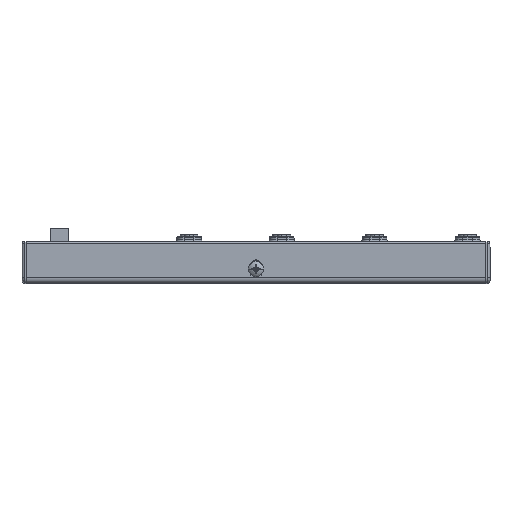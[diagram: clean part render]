
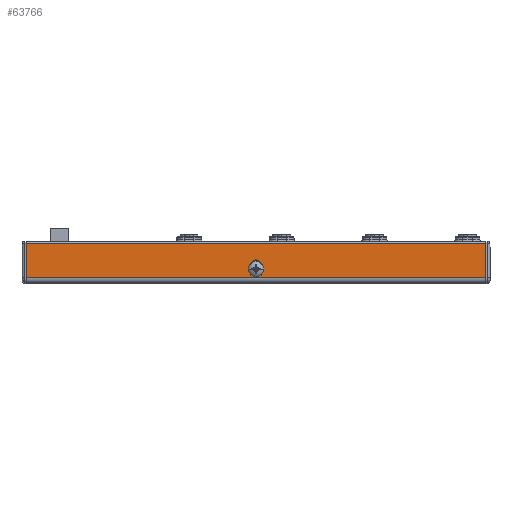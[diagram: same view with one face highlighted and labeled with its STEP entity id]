
A CAD part, front view. The second image highlights one B-rep face of the part: STEP entity #63766.
In plain terms, the highlighted planar face has unit normal (0, -1, 0).
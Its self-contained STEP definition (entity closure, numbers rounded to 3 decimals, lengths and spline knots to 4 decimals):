
#17818=DIRECTION('',(0.,0.,1.));
#17819=VECTOR('',#17818,0.7115);
#17820=CARTESIAN_POINT('',(-3.94,-2.5,0.125));
#17821=LINE('',#17820,#17819);
#17822=CARTESIAN_POINT('',(0.8,-2.5,0.4));
#17823=DIRECTION('',(0.,-1.,0.));
#17824=DIRECTION('',(0.889,0.,0.457));
#17825=AXIS2_PLACEMENT_3D('',#17822,#17823,#17824);
#17831=DIRECTION('',(1.,0.,0.));
#17832=VECTOR('',#17831,9.48);
#17833=CARTESIAN_POINT('',(-3.94,-2.5,
0.8365));
#17834=LINE('',#17833,#17832);
#18333=DIRECTION('',(1.,0.,0.));
#18334=VECTOR('',#18333,9.48);
#18335=CARTESIAN_POINT('',(-3.94,-2.5,0.125));
#18336=LINE('',#18335,#18334);
#18418=DIRECTION('',(0.,0.,1.));
#18419=VECTOR('',#18418,0.7115);
#18420=CARTESIAN_POINT('',(5.54,-2.5,0.125));
#18421=LINE('',#18420,#18419);
#19904=CARTESIAN_POINT('',(0.8,-2.5,0.3));
#19905=DIRECTION('',(0.,-1.,0.));
#19906=DIRECTION('',(-1.,0.,0.));
#19907=AXIS2_PLACEMENT_3D('',#19904,#19905,#19906);
#19909=CARTESIAN_POINT('',(0.8,-2.5,0.3));
#19910=DIRECTION('',(0.,-1.,0.));
#19911=DIRECTION('',(1.,0.,0.));
#19912=AXIS2_PLACEMENT_3D('',#19909,#19910,#19911);
#19922=CARTESIAN_POINT('',(0.8,-2.5,0.3));
#19923=DIRECTION('',(0.,-1.,0.));
#19924=DIRECTION('',(-0.489,0.,0.872));
#19925=AXIS2_PLACEMENT_3D('',#19922,#19923,#19924);
#40719=CARTESIAN_POINT('',(-3.94,-2.5,0.125));
#40720=CARTESIAN_POINT('',(-3.94,-2.5,
0.8365));
#40721=VERTEX_POINT('',#40719);
#40722=VERTEX_POINT('',#40720);
#40799=CARTESIAN_POINT('',(5.54,-2.5,0.125));
#40800=CARTESIAN_POINT('',(5.54,-2.5,
0.8365));
#40801=VERTEX_POINT('',#40799);
#40802=VERTEX_POINT('',#40800);
#40868=CARTESIAN_POINT('',(0.8787,-2.5,0.4404));
#40870=VERTEX_POINT('',#40868);
#40871=CARTESIAN_POINT('',(0.7213,-2.5,0.4404));
#40873=VERTEX_POINT('',#40871);
#40879=CARTESIAN_POINT('',(0.639,-2.5,0.3));
#40880=CARTESIAN_POINT('',(0.961,-2.5,0.3));
#40881=VERTEX_POINT('',#40879);
#40882=VERTEX_POINT('',#40880);
#63742=CARTESIAN_POINT('',(5.54,-2.5,0.));
#63743=DIRECTION('',(0.,-1.,0.));
#63744=DIRECTION('',(0.,0.,1.));
#63745=AXIS2_PLACEMENT_3D('',#63742,#63743,#63744);
#63746=PLANE('',#63745);
#63747=ORIENTED_EDGE('',*,*,#63732,.T.);
#63749=ORIENTED_EDGE('',*,*,#63748,.T.);
#63751=ORIENTED_EDGE('',*,*,#63750,.F.);
#63753=ORIENTED_EDGE('',*,*,#63752,.F.);
#63754=EDGE_LOOP('',(#63747,#63749,#63751,#63753));
#63755=FACE_OUTER_BOUND('',#63754,.F.);
#63757=ORIENTED_EDGE('',*,*,#63756,.T.);
#63759=ORIENTED_EDGE('',*,*,#63758,.T.);
#63761=ORIENTED_EDGE('',*,*,#63760,.T.);
#63763=ORIENTED_EDGE('',*,*,#63762,.T.);
#63764=EDGE_LOOP('',(#63757,#63759,#63761,#63763));
#63765=FACE_BOUND('',#63764,.F.);
#63766=ADVANCED_FACE('',(#63755,#63765),#63746,.T.);
#17826=CIRCLE('',#17825,0.0885);
#19908=CIRCLE('',#19907,0.161);
#19913=CIRCLE('',#19912,0.161);
#19926=CIRCLE('',#19925,0.161);
#63732=EDGE_CURVE('',#40721,#40722,#17821,.T.);
#63748=EDGE_CURVE('',#40722,#40802,#17834,.T.);
#63750=EDGE_CURVE('',#40801,#40802,#18421,.T.);
#63752=EDGE_CURVE('',#40721,#40801,#18336,.T.);
#63756=EDGE_CURVE('',#40881,#40882,#19908,.T.);
#63758=EDGE_CURVE('',#40882,#40870,#19913,.T.);
#63760=EDGE_CURVE('',#40870,#40873,#17826,.T.);
#63762=EDGE_CURVE('',#40873,#40881,#19926,.T.);
